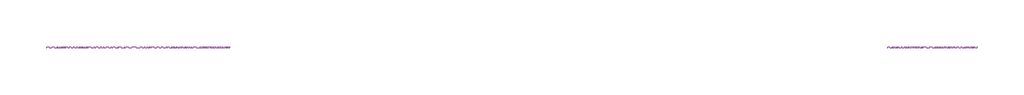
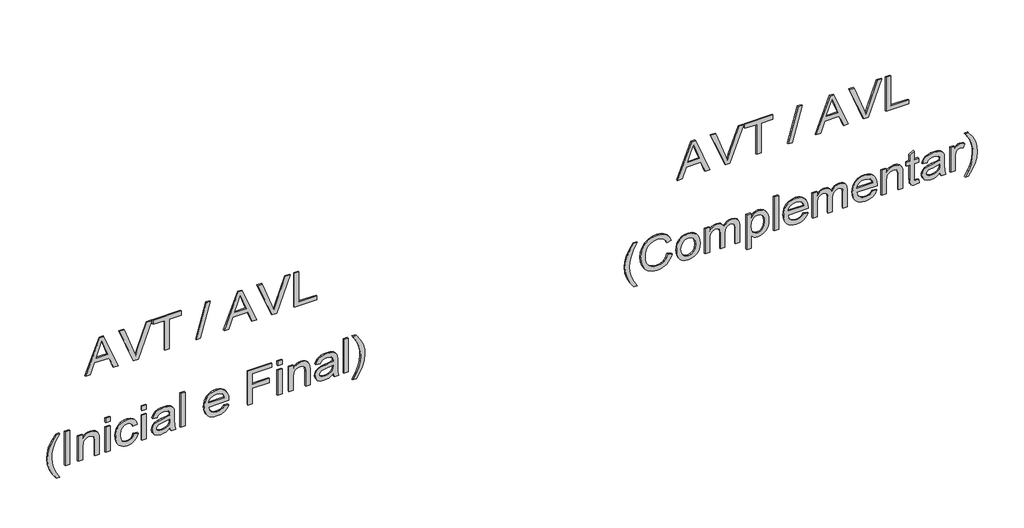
# One storey, part 8 of 14: 2 proxies.
"""IFC4 building model written with IfcOpenShell, lengths in millimetres."""

from ifc_helpers import new_model, si_unit, frame, origin, place, context, project, spatial, polyline, outline, extrude, element, save

model = new_model("IFC4")

# Units and contexts
model_context = context("Model", 3, world=origin())
ifc_project = project(units=[si_unit("LENGTHUNIT", "METRE", prefix="MILLI")], contexts=[model_context])

# Site, building, storey
site = spatial("IfcSite", under=ifc_project)
building = spatial("IfcBuilding", under=site)
storey = spatial("IfcBuildingStorey", under=building, Name="04 - Marelli - Planta Baixa - Painéis de Vidro", Elevation=36000.0)

# Proxies
placement = place(None, origin())
element("IfcBuildingElementProxy", 1, Name="300mm Arial", ObjectType="300mm Arial", at=placement, inside=storey, context=model_context, shape_type="SweptSolid", body=[
    extrude(outline(polyline([(42065.9244535, 62862.8276534), (42065.9244535, 62902.6324853), (42160.1022443, 62937.06624), (42160.1022443, 63061.1896252), (42065.9244535, 63095.6969563), (42065.9244535, 63135.5017882), (42367.293384, 63015.2043758), (42367.293384, 62983.1250658), (42065.9244535, 62862.8276534)]), holes=[polyline([(42197.7733606, 62950.898603), (42278.3395176, 62980.4027391), (42329.6222677, 62999.1647208), (42271.8647944, 63020.2811473), (42197.7733606, 63047.4308386), (42197.7733606, 62950.898603)])]), frame((0.0, 8778.3159498, 0.0), z_axis=(0.0, 1.0, 0.0), x_axis=(0.0, 0.0, 1.0)), (0.0, 0.0, 1.0), 10.0),
    extrude(outline(polyline([(42065.9244535, 63264.7755213), (42065.9244535, 63303.6974364), (42367.293384, 63418.5501953), (42367.293384, 63378.2303286), (42150.1694304, 63297.7377481), (42101.2411251, 63281.6980931), (42150.1694304, 63265.4377089), (42367.293384, 63185.1658576), (42367.293384, 63144.8459909), (42065.9244535, 63264.7755213)])), frame((0.0, 8778.3159498, 0.0), z_axis=(0.0, 1.0, 0.0), x_axis=(0.0, 0.0, 1.0)), (0.0, 0.0, 1.0), 10.0),
    extrude(outline(polyline([(42065.9244535, 63528.9147939), (42065.9244535, 63566.5859102), (42329.6222677, 63566.5859102), (42329.6222677, 63665.4725905), (42367.293384, 63665.4725905), (42367.293384, 63430.0281136), (42329.6222677, 63430.0281136), (42329.6222677, 63528.9147939), (42065.9244535, 63528.9147939)])), frame((0.0, 8778.3159498, 0.0), z_axis=(0.0, 1.0, 0.0), x_axis=(0.0, 0.0, 1.0)), (0.0, 0.0, 1.0), 10.0),
    extrude(outline(polyline([(42065.9244535, 63792.612608), (42065.9244535, 63826.6049044), (42367.293384, 63911.364916), (42367.293384, 63877.3726197), (42065.9244535, 63792.612608)])), frame((0.0, 8778.3159498, 0.0), z_axis=(0.0, 1.0, 0.0), x_axis=(0.0, 0.0, 1.0)), (0.0, 0.0, 1.0), 10.0),
    extrude(outline(polyline([(42065.9244535, 64025.9233693), (42065.9244535, 64065.7282012), (42160.1022443, 64100.161956), (42160.1022443, 64224.2853411), (42065.9244535, 64258.7926723), (42065.9244535, 64298.5975042), (42367.293384, 64178.3000917), (42367.293384, 64146.2207818), (42065.9244535, 64025.9233693)]), holes=[polyline([(42197.7733606, 64113.994319), (42278.3395176, 64143.498455), (42329.6222677, 64162.2604368), (42271.8647944, 64183.3768633), (42197.7733606, 64210.5265545), (42197.7733606, 64113.994319)])]), frame((0.0, 8778.3159498, 0.0), z_axis=(0.0, 1.0, 0.0), x_axis=(0.0, 0.0, 1.0)), (0.0, 0.0, 1.0), 10.0),
    extrude(outline(polyline([(42065.9244535, 64427.8712373), (42065.9244535, 64466.7931524), (42367.293384, 64581.6459113), (42367.293384, 64541.3260446), (42150.1694304, 64460.833464), (42101.2411251, 64444.7938091), (42150.1694304, 64428.5334249), (42367.293384, 64348.2615735), (42367.293384, 64307.9417068), (42065.9244535, 64427.8712373)])), frame((0.0, 8778.3159498, 0.0), z_axis=(0.0, 1.0, 0.0), x_axis=(0.0, 0.0, 1.0)), (0.0, 0.0, 1.0), 10.0),
    extrude(outline(polyline([(42065.9244535, 64616.6682772), (42065.9244535, 64805.0238587), (42103.5955698, 64805.0238587), (42103.5955698, 64654.3393935), (42367.293384, 64654.3393935), (42367.293384, 64616.6682772), (42065.9244535, 64616.6682772)])), frame((0.0, 8778.3159498, 0.0), z_axis=(0.0, 1.0, 0.0), x_axis=(0.0, 0.0, 1.0)), (0.0, 0.0, 1.0), 10.0),
    extrude(outline(polyline([(41249.3155348, 62615.3902234), (41249.3155348, 62643.6435607), (41297.5540614, 62614.8016122), (41345.8109821, 62594.2002205), (41394.0862969, 62581.8393855), (41442.3800058, 62577.7191071), (41480.2534572, 62580.091946), (41517.9429677, 62587.2104626), (41575.7740173, 62608.4004655), (41635.4444769, 62643.6435607), (41635.4444769, 62615.3902234), (41584.934279, 62580.6989513), (41534.2033518, 62556.3819514), (41489.4137189, 62544.131481), (41442.600735, 62540.0479908), (41389.2210575, 62545.5110385), (41337.68079, 62561.9001813), (41290.2791949, 62586.1987871), (41249.3155348, 62615.3902234)])), frame((0.0, 8778.3159498, 0.0), z_axis=(0.0, 1.0, 0.0), x_axis=(0.0, 0.0, 1.0)), (0.0, 0.0, 1.0), 10.0),
    extrude(outline(polyline([(62728.4035724, 8778.3159498), (62690.732456, 8778.3159498), (62690.732456, 8788.3159498), (62728.4035724, 8788.3159498), (62728.4035724, 8778.3159498)])), frame((0.0, 0.0, 41334.0755465), z_axis=(0.0, 0.0, 1.0), x_axis=(1.0, 0.0, 0.0)), (0.0, 0.0, 1.0), 301.3689304),
    extrude(outline(polyline([(41334.0755465, 62799.0369154), (41334.0755465, 62836.7080317), (41451.5034793, 62836.7080317), (41486.2131456, 62841.003054), (41498.5877762, 62846.3718319), (41507.6422718, 62853.8881209), (41518.7339139, 62872.6960879), (41522.431128, 62894.7598106), (41520.7848561, 62908.6565529), (41515.8460403, 62920.6219148), (41508.1481095, 62929.9569205), (41498.2244927, 62935.962594), (41464.8943839, 62940.3036016), (41334.0755465, 62940.3036016), (41334.0755465, 62977.9747179), (41469.9711555, 62977.9747179), (41506.391473, 62975.9881551), (41534.0929872, 62964.6941779), (41544.6328064, 62954.5958171), (41552.9285454, 62940.4139662), (41558.3088196, 62923.4086209), (41560.1022443, 62904.8397772), (41557.8765582, 62883.8613065), (41551.1995, 62865.513192), (41540.0710697, 62849.7954337), (41524.4912672, 62836.7080317), (41555.3933548, 62836.7080317), (41555.3933548, 62799.0369154), (41334.0755465, 62799.0369154)])), frame((0.0, 8778.3159498, 0.0), z_axis=(0.0, 1.0, 0.0), x_axis=(0.0, 0.0, 1.0)), (0.0, 0.0, 1.0), 10.0),
    extrude(outline(polyline([(63067.4436191, 8778.3159498), (63029.7725028, 8778.3159498), (63029.7725028, 8788.3159498), (63067.4436191, 8788.3159498), (63067.4436191, 8778.3159498)])), frame((0.0, 0.0, 41597.7733606), z_axis=(0.0, 0.0, 1.0), x_axis=(1.0, 0.0, 0.0)), (0.0, 0.0, 1.0), 37.6711163),
    extrude(outline(polyline([(63067.4436191, 8778.3159498), (63029.7725028, 8778.3159498), (63029.7725028, 8788.3159498), (63067.4436191, 8788.3159498), (63067.4436191, 8778.3159498)])), frame((0.0, 0.0, 41334.0755465), z_axis=(0.0, 0.0, 1.0), x_axis=(1.0, 0.0, 0.0)), (0.0, 0.0, 1.0), 221.3178083),
    extrude(outline(polyline([(41414.1266686, 63265.2169797), (41393.2493654, 63258.7882419), (41378.5892679, 63247.1539738), (41369.9256469, 63231.160304), (41367.0377732, 63211.6533612), (41371.6638893, 63187.6214699), (41385.5422376, 63168.647956), (41409.6477053, 63156.3147121), (41444.9551798, 63152.2036308), (41479.7936048, 63156.4066826), (41503.816299, 63169.015838), (41517.7774208, 63188.3388398), (41522.431128, 63212.6834308), (41520.0674862, 63229.1737412), (41512.9765607, 63243.0336954), (41501.1951398, 63253.6746821), (41484.7600117, 63260.5080902), (41489.4689012, 63298.1792065), (41519.4512838, 63287.9244959), (41541.7081445, 63269.6683519), (41555.5037194, 63244.2201148), (41560.1022443, 63212.3891252), (41556.7545181, 63185.7452717), (41546.7113397, 63161.1431633), (41529.9635118, 63140.5785598), (41506.5018376, 63126.0472209), (41477.448357, 63117.4111911), (41443.9251102, 63114.5325145), (41417.8675687, 63116.2178739), (41395.024396, 63121.2739521), (41375.3955923, 63129.700749), (41358.9811575, 63141.4982647), (41346.0248135, 63156.0732895), (41336.7702821, 63172.8326137), (41331.2175632, 63191.7762372), (41329.3666569, 63212.90416), (41334.6733547, 63245.535293), (41350.593448, 63272.648196), (41375.9129264, 63292.3850651), (41409.4177791, 63302.888096), (41414.1266686, 63265.2169797)])), frame((0.0, 8778.3159498, 0.0), z_axis=(0.0, 1.0, 0.0), x_axis=(0.0, 0.0, 1.0)), (0.0, 0.0, 1.0), 10.0),
    extrude(outline(polyline([(63373.5214391, 8778.3159498), (63335.8503228, 8778.3159498), (63335.8503228, 8788.3159498), (63373.5214391, 8788.3159498), (63373.5214391, 8778.3159498)])), frame((0.0, 0.0, 41597.7733606), z_axis=(0.0, 0.0, 1.0), x_axis=(1.0, 0.0, 0.0)), (0.0, 0.0, 1.0), 37.6711163),
    extrude(outline(polyline([(63373.5214391, 8778.3159498), (63335.8503228, 8778.3159498), (63335.8503228, 8788.3159498), (63373.5214391, 8788.3159498), (63373.5214391, 8778.3159498)])), frame((0.0, 0.0, 41334.0755465), z_axis=(0.0, 0.0, 1.0), x_axis=(1.0, 0.0, 0.0)), (0.0, 0.0, 1.0), 221.3178083),
    extrude(outline(polyline([(41362.3288837, 63571.2947997), (41334.0755465, 63580.7125788), (41334.0755465, 63618.3836951), (41365.7501862, 63610.8789024), (41431.1963932, 63608.965916), (41478.0645594, 63608.965916), (41511.0267861, 63607.126506), (41525.1442577, 63602.5831634), (41536.5945848, 63595.5750114), (41545.856014, 63585.0076011), (41553.406792, 63569.7864835), (41558.4283812, 63549.598959), (41560.1022443, 63524.1323279), (41558.207652, 63497.5804449), (41552.5238752, 63474.4314704), (41543.3452194, 63455.5039417), (41530.9659903, 63441.6163964), (41514.7791825, 63431.8583265), (41494.1777908, 63425.319224), (41489.4689012, 63462.9903403), (41505.1314772, 63470.4767389), (41515.1838527, 63481.1637109), (41520.6193092, 63496.8354839), (41522.431128, 63519.2762856), (41519.7088012, 63543.5197091), (41511.5418209, 63560.9205274), (41500.5421493, 63568.7012316), (41483.7299421, 63571.2947997), (41475.3422326, 63571.0740705), (41468.3524747, 63544.2554731), (41462.3927864, 63505.7382282), (41456.7274037, 63473.1438834), (41444.3665686, 63446.7667443), (41434.8752131, 63436.1625458), (41422.7351073, 63427.8208216), (41408.5532564, 63422.4129563), (41392.9366657, 63420.6103345), (41367.6079903, 63425.3836034), (41347.2457219, 63439.70341), (41333.8364232, 63462.925961), (41329.3666569, 63494.4074627), (41331.224461, 63515.2755689), (41336.7978732, 63534.7641176), (41346.896234, 63553.2961731), (41362.3288837, 63571.2947997)]), holes=[polyline([(41437.6711163, 63571.2947997), (41427.0025384, 63571.0740705), (41410.0799667, 63569.5841484), (41397.8662844, 63565.1143822), (41386.0112871, 63555.0344155), (41376.0508821, 63540.5398649), (41369.2910505, 63522.6607999), (41367.0377732, 63502.4272902), (41369.0795183, 63483.3434117), (41375.2047535, 63469.5018516), (41384.3834093, 63461.086551), (41395.5854161, 63458.2814508), (41410.0799667, 63463.4317987), (41420.0127805, 63478.1102903), (41426.1196217, 63510.5206941), (41437.6711163, 63571.2947997)])]), frame((0.0, 8778.3159498, 0.0), z_axis=(0.0, 1.0, 0.0), x_axis=(0.0, 0.0, 1.0)), (0.0, 0.0, 1.0), 10.0),
    extrude(outline(polyline([(63698.4348172, 8778.3159498), (63660.7637009, 8778.3159498), (63660.7637009, 8788.3159498), (63698.4348172, 8788.3159498), (63698.4348172, 8778.3159498)])), frame((0.0, 0.0, 41334.0755465), z_axis=(0.0, 0.0, 1.0), x_axis=(1.0, 0.0, 0.0)), (0.0, 0.0, 1.0), 301.3689304),
    extrude(outline(polyline([(41400.0, 64027.6156265), (41385.1191733, 64017.0574133), (41374.9104479, 64003.3354148), (41369.0059419, 63986.4496313), (41367.0377732, 63966.4000625), (41371.2868103, 63939.7378149), (41384.0339214, 63917.8764274), (41404.7640718, 63902.7288862), (41432.9622268, 63896.2081778), (41432.9622268, 64065.507472), (41443.1157698, 64065.7282012), (41469.3687487, 64063.9416743), (41492.5039277, 64058.5820935), (41512.5213067, 64049.6494588), (41529.4208859, 64037.1437702), (41542.8439802, 64021.8237844), (41552.4319047, 64004.4482579), (41558.1846594, 63985.0171907), (41560.1022443, 63963.530583), (41558.1800609, 63941.3289046), (41552.4135106, 63921.2977299), (41542.8025935, 63903.437059), (41529.3473095, 63887.746892), (41512.4109422, 63874.9675911), (41492.3567749, 63865.8395191), (41469.1848077, 63860.3626759), (41442.8950406, 63858.5370615), (41417.467497, 63860.3442818), (41395.0427901, 63865.7659427), (41375.62092, 63874.8020442), (41359.2018867, 63887.4525864), (41346.1489737, 63903.1841402), (41336.8254644, 63921.4632768), (41331.2313588, 63942.2899963), (41329.3666569, 63965.6642985), (41333.6892704, 64001.3212609), (41346.6571107, 64030.0068595), (41367.4608375, 64051.2428477), (41395.2911105, 64064.5509788), (41400.0, 64027.6156265)]), holes=[polyline([(41470.6333431, 63896.2081778), (41491.8693312, 63902.3977924), (41508.3412476, 63916.9935106), (41518.9086579, 63937.9903754), (41522.431128, 63963.3834302), (41518.0165441, 63991.011368), (41504.7727922, 64012.9739231), (41490.535759, 64022.9619193), (41470.6333431, 64028.0570849), (41470.6333431, 63896.2081778)])]), frame((0.0, 8778.3159498, 0.0), z_axis=(0.0, 1.0, 0.0), x_axis=(0.0, 0.0, 1.0)), (0.0, 0.0, 1.0), 10.0),
    extrude(outline(polyline([(41334.0755465, 64225.8304455), (41334.0755465, 64263.5015618), (41470.6333431, 64263.5015618), (41470.6333431, 64404.768248), (41508.3044594, 64404.768248), (41508.3044594, 64263.5015618), (41597.7733606, 64263.5015618), (41597.7733606, 64428.3126957), (41635.4444769, 64428.3126957), (41635.4444769, 64225.8304455), (41334.0755465, 64225.8304455)])), frame((0.0, 8778.3159498, 0.0), z_axis=(0.0, 1.0, 0.0), x_axis=(0.0, 0.0, 1.0)), (0.0, 0.0, 1.0), 10.0),
    extrude(outline(polyline([(64513.0727074, 8778.3159498), (64475.4015911, 8778.3159498), (64475.4015911, 8788.3159498), (64513.0727074, 8788.3159498), (64513.0727074, 8778.3159498)])), frame((0.0, 0.0, 41597.7733606), z_axis=(0.0, 0.0, 1.0), x_axis=(1.0, 0.0, 0.0)), (0.0, 0.0, 1.0), 37.6711163),
    extrude(outline(polyline([(64513.0727074, 8778.3159498), (64475.4015911, 8778.3159498), (64475.4015911, 8788.3159498), (64513.0727074, 8788.3159498), (64513.0727074, 8778.3159498)])), frame((0.0, 0.0, 41334.0755465), z_axis=(0.0, 0.0, 1.0), x_axis=(1.0, 0.0, 0.0)), (0.0, 0.0, 1.0), 221.3178083),
    extrude(outline(polyline([(41334.0755465, 64569.5793818), (41334.0755465, 64607.2504981), (41451.5034793, 64607.2504981), (41486.2131456, 64611.5455204), (41498.5877762, 64616.9142983), (41507.6422718, 64624.4305873), (41518.7339139, 64643.2385543), (41522.431128, 64665.302277), (41520.7848561, 64679.1990193), (41515.8460403, 64691.1643812), (41508.1481095, 64700.4993868), (41498.2244927, 64706.5050604), (41464.8943839, 64710.846068), (41334.0755465, 64710.846068), (41334.0755465, 64748.5171843), (41469.9711555, 64748.5171843), (41506.391473, 64746.5306215), (41534.0929872, 64735.2366442), (41544.6328064, 64725.1382835), (41552.9285454, 64710.9564326), (41558.3088196, 64693.9510873), (41560.1022443, 64675.3822436), (41557.8765582, 64654.4037729), (41551.1995, 64636.0556583), (41540.0710697, 64620.3379001), (41524.4912672, 64607.2504981), (41555.3933548, 64607.2504981), (41555.3933548, 64569.5793818), (41334.0755465, 64569.5793818)])), frame((0.0, 8778.3159498, 0.0), z_axis=(0.0, 1.0, 0.0), x_axis=(0.0, 0.0, 1.0)), (0.0, 0.0, 1.0), 10.0),
    extrude(outline(polyline([(41362.3288837, 64941.5816553), (41334.0755465, 64950.9994344), (41334.0755465, 64988.6705507), (41365.7501862, 64981.165758), (41431.1963932, 64979.2527716), (41478.0645594, 64979.2527716), (41511.0267861, 64977.4133617), (41525.1442577, 64972.870019), (41536.5945848, 64965.861867), (41545.856014, 64955.2944567), (41553.406792, 64940.0733392), (41558.4283812, 64919.8858147), (41560.1022443, 64894.4191836), (41558.207652, 64867.8673006), (41552.5238752, 64844.718326), (41543.3452194, 64825.7907974), (41530.9659903, 64811.903252), (41514.7791825, 64802.1451821), (41494.1777908, 64795.6060797), (41489.4689012, 64833.277196), (41505.1314772, 64840.7635946), (41515.1838527, 64851.4505665), (41520.6193092, 64867.1223395), (41522.431128, 64889.5631412), (41519.7088012, 64913.8065647), (41511.5418209, 64931.2073831), (41500.5421493, 64938.9880873), (41483.7299421, 64941.5816553), (41475.3422326, 64941.3609261), (41468.3524747, 64914.5423287), (41462.3927864, 64876.0250838), (41456.7274037, 64843.430739), (41444.3665686, 64817.0536), (41434.8752131, 64806.4494015), (41422.7351073, 64798.1076772), (41408.5532564, 64792.6998119), (41392.9366657, 64790.8971901), (41367.6079903, 64795.670459), (41347.2457219, 64809.9902657), (41333.8364232, 64833.2128166), (41329.3666569, 64864.6943183), (41331.224461, 64885.5624245), (41336.7978732, 64905.0509732), (41346.896234, 64923.5830287), (41362.3288837, 64941.5816553)]), holes=[polyline([(41437.6711163, 64941.5816553), (41427.0025384, 64941.3609261), (41410.0799667, 64939.8710041), (41397.8662844, 64935.4012378), (41386.0112871, 64925.3212712), (41376.0508821, 64910.8267205), (41369.2910505, 64892.9476556), (41367.0377732, 64872.7141458), (41369.0795183, 64853.6302673), (41375.2047535, 64839.7887073), (41384.3834093, 64831.3734066), (41395.5854161, 64828.5683064), (41410.0799667, 64833.7186544), (41420.0127805, 64848.397146), (41426.1196217, 64880.8075497), (41437.6711163, 64941.5816553)])]), frame((0.0, 8778.3159498, 0.0), z_axis=(0.0, 1.0, 0.0), x_axis=(0.0, 0.0, 1.0)), (0.0, 0.0, 1.0), 10.0),
    extrude(outline(polyline([(65068.7216729, 8778.3159498), (65031.0505566, 8778.3159498), (65031.0505566, 8788.3159498), (65068.7216729, 8788.3159498), (65068.7216729, 8778.3159498)])), frame((0.0, 0.0, 41334.0755465), z_axis=(0.0, 0.0, 1.0), x_axis=(1.0, 0.0, 0.0)), (0.0, 0.0, 1.0), 301.3689304),
    extrude(outline(polyline([(41249.3155348, 65134.6461264), (41290.2791949, 65163.699607), (41337.68079, 65188.0258039), (41389.2210575, 65204.4977202), (41442.600735, 65209.988359), (41489.4137189, 65205.9048689), (41534.2033518, 65193.6543984), (41584.934279, 65169.3373986), (41635.4444769, 65134.6461264), (41635.4444769, 65106.3927892), (41575.1854061, 65141.8566135), (41546.8400984, 65153.8311725), (41517.2807801, 65162.8258872), (41479.9775458, 65169.9444038), (41442.3800058, 65172.3172427), (41394.0862969, 65168.1969644), (41345.8109821, 65155.8361293), (41297.5540614, 65135.2347376), (41249.3155348, 65106.3927892), (41249.3155348, 65134.6461264)])), frame((0.0, 8778.3159498, 0.0), z_axis=(0.0, 1.0, 0.0), x_axis=(0.0, 0.0, 1.0)), (0.0, 0.0, 1.0), 10.0),
])
element("IfcBuildingElementProxy", 2, Name="300mm Arial", ObjectType="300mm Arial", at=placement, inside=storey, context=model_context, shape_type="SweptSolid", body=[
    extrude(outline(polyline([(42065.9244535, 67834.5743162), (42065.9244535, 67874.379148), (42160.1022443, 67908.8129028), (42160.1022443, 68032.936288), (42065.9244535, 68067.4436191), (42065.9244535, 68107.248451), (42367.293384, 67986.9510386), (42367.293384, 67954.8717286), (42065.9244535, 67834.5743162)]), holes=[polyline([(42197.7733606, 67922.6452658), (42278.3395176, 67952.1494018), (42329.6222677, 67970.9113836), (42271.8647944, 67992.0278101), (42197.7733606, 68019.1775013), (42197.7733606, 67922.6452658)])]), frame((0.0, 8778.3159498, 0.0), z_axis=(0.0, 1.0, 0.0), x_axis=(0.0, 0.0, 1.0)), (0.0, 0.0, 1.0), 10.0),
    extrude(outline(polyline([(42065.9244535, 68236.5221841), (42065.9244535, 68275.4440992), (42367.293384, 68390.2968581), (42367.293384, 68349.9769914), (42150.1694304, 68269.4844109), (42101.2411251, 68253.4447559), (42150.1694304, 68237.1843717), (42367.293384, 68156.9125203), (42367.293384, 68116.5926537), (42065.9244535, 68236.5221841)])), frame((0.0, 8778.3159498, 0.0), z_axis=(0.0, 1.0, 0.0), x_axis=(0.0, 0.0, 1.0)), (0.0, 0.0, 1.0), 10.0),
    extrude(outline(polyline([(42065.9244535, 68500.6614566), (42065.9244535, 68538.3325729), (42329.6222677, 68538.3325729), (42329.6222677, 68637.2192532), (42367.293384, 68637.2192532), (42367.293384, 68401.7747763), (42329.6222677, 68401.7747763), (42329.6222677, 68500.6614566), (42065.9244535, 68500.6614566)])), frame((0.0, 8778.3159498, 0.0), z_axis=(0.0, 1.0, 0.0), x_axis=(0.0, 0.0, 1.0)), (0.0, 0.0, 1.0), 10.0),
    extrude(outline(polyline([(42065.9244535, 68764.3592708), (42065.9244535, 68798.3515671), (42367.293384, 68883.1115788), (42367.293384, 68849.1192825), (42065.9244535, 68764.3592708)])), frame((0.0, 8778.3159498, 0.0), z_axis=(0.0, 1.0, 0.0), x_axis=(0.0, 0.0, 1.0)), (0.0, 0.0, 1.0), 10.0),
    extrude(outline(polyline([(42065.9244535, 68997.6700321), (42065.9244535, 69037.474864), (42160.1022443, 69071.9086187), (42160.1022443, 69196.0320039), (42065.9244535, 69230.5393351), (42065.9244535, 69270.3441669), (42367.293384, 69150.0467545), (42367.293384, 69117.9674445), (42065.9244535, 68997.6700321)]), holes=[polyline([(42197.7733606, 69085.7409818), (42278.3395176, 69115.2451178), (42329.6222677, 69134.0070995), (42271.8647944, 69155.123526), (42197.7733606, 69182.2732173), (42197.7733606, 69085.7409818)])]), frame((0.0, 8778.3159498, 0.0), z_axis=(0.0, 1.0, 0.0), x_axis=(0.0, 0.0, 1.0)), (0.0, 0.0, 1.0), 10.0),
    extrude(outline(polyline([(42065.9244535, 69399.6179), (42065.9244535, 69438.5398151), (42367.293384, 69553.392574), (42367.293384, 69513.0727074), (42150.1694304, 69432.5801268), (42101.2411251, 69416.5404718), (42150.1694304, 69400.2800876), (42367.293384, 69320.0082363), (42367.293384, 69279.6883696), (42065.9244535, 69399.6179)])), frame((0.0, 8778.3159498, 0.0), z_axis=(0.0, 1.0, 0.0), x_axis=(0.0, 0.0, 1.0)), (0.0, 0.0, 1.0), 10.0),
    extrude(outline(polyline([(42065.9244535, 69588.41494), (42065.9244535, 69776.7705215), (42103.5955698, 69776.7705215), (42103.5955698, 69626.0860563), (42367.293384, 69626.0860563), (42367.293384, 69588.41494), (42065.9244535, 69588.41494)])), frame((0.0, 8778.3159498, 0.0), z_axis=(0.0, 1.0, 0.0), x_axis=(0.0, 0.0, 1.0)), (0.0, 0.0, 1.0), 10.0),
    extrude(outline(polyline([(41249.3155348, 67469.4146478), (41249.3155348, 67497.667985), (41297.5540614, 67468.8260366), (41345.8109821, 67448.2246448), (41394.0862969, 67435.8638098), (41442.3800058, 67431.7435314), (41480.2534572, 67434.1163703), (41517.9429677, 67441.2348869), (41575.7740173, 67462.4248898), (41635.4444769, 67497.667985), (41635.4444769, 67469.4146478), (41584.934279, 67434.7233756), (41534.2033518, 67410.4063757), (41489.4137189, 67398.1559053), (41442.600735, 67394.0724151), (41389.2210575, 67399.5354628), (41337.68079, 67415.9246057), (41290.2791949, 67440.2232114), (41249.3155348, 67469.4146478)])), frame((0.0, 8778.3159498, 0.0), z_axis=(0.0, 1.0, 0.0), x_axis=(0.0, 0.0, 1.0)), (0.0, 0.0, 1.0), 10.0),
    extrude(outline(polyline([(41441.2027835, 67751.94802), (41408.9395325, 67739.761929), (41385.7261786, 67719.9790747), (41371.7098746, 67693.7766796), (41367.0377732, 67662.331966), (41370.4682728, 67635.3570187), (41380.7597717, 67610.3502401), (41397.9858461, 67589.491331), (41422.2200725, 67574.9599922), (41452.3128197, 67566.4343269), (41487.1144565, 67563.5924385), (41515.5333406, 67565.9928685), (41543.1060961, 67573.1941586), (41567.4966724, 67586.3183488), (41586.3690188, 67606.4874792), (41598.4539423, 67633.0669533), (41602.4822501, 67665.4221748), (41598.8494154, 67693.491571), (41587.9509113, 67716.3370429), (41569.1061561, 67734.1793197), (41541.6345681, 67747.2391305), (41550.6108888, 67784.9102468), (41588.4291579, 67768.2727836), (41603.751443, 67756.4706693), (41616.6824952, 67742.3463), (41626.9510013, 67726.16639), (41634.2856486, 67708.1976538), (41640.1533665, 67666.8937028), (41635.6192209, 67629.0386455), (41622.0167841, 67594.4945261), (41599.6771499, 67565.3674691), (41568.9314122, 67543.763599), (41530.9843844, 67530.3818914), (41487.0408801, 67525.9213222), (41445.3782441, 67529.8668566), (41406.4747231, 67541.7034598), (41373.3837376, 67561.0908409), (41349.1587083, 67587.6887092), (41334.3146698, 67622.3891784), (41329.3666569, 67666.0843624), (41331.0014325, 67688.50677), (41335.9057594, 67709.1265558), (41344.0796375, 67727.9437199), (41355.5230668, 67744.9582621), (41370.0796975, 67759.8344903), (41387.5931797, 67772.2367121), (41408.0635135, 67782.1649274), (41431.4906988, 67789.6191364), (41441.2027835, 67751.94802)])), frame((0.0, 8778.3159498, 0.0), z_axis=(0.0, 1.0, 0.0), x_axis=(0.0, 0.0, 1.0)), (0.0, 0.0, 1.0), 10.0),
    extrude(outline(polyline([(41444.7344506, 67827.2902527), (41418.4124939, 67828.9986047), (41395.3646869, 67834.1236607), (41375.5910296, 67842.6654208), (41359.0915221, 67854.6238849), (41346.0868936, 67869.350661), (41336.7978732, 67886.1973571), (41331.224461, 67905.1639733), (41329.3666569, 67926.2505094), (41332.7419742, 67952.8391806), (41342.8679261, 67977.2757421), (41359.1007192, 67997.8495427), (41380.7965599, 68012.849931), (41409.767267, 68022.0101927), (41447.8246594, 68025.0636133), (41472.7049786, 68023.3368672), (41494.7388108, 68018.1566288), (41513.9261561, 68009.5228982), (41530.2670145, 67997.4356754), (41543.3199275, 67982.6261259), (41552.6434368, 67965.825415), (41558.2375424, 67947.0335428), (41560.1022443, 67926.2505094), (41558.5709355, 67907.4241483), (41553.9770091, 67890.0877092), (41546.3204651, 67874.2411923), (41535.6013034, 67859.8845974), (41518.830483, 67845.6245716), (41498.095734, 67835.4388389), (41473.3970566, 67829.3273992), (41444.7344506, 67827.2902527)]), holes=[polyline([(41444.808027, 67864.961369), (41478.8830968, 67869.3207706), (41503.1173232, 67882.3989755), (41517.6026768, 67902.0806623), (41522.431128, 67926.2505094), (41517.5842827, 67950.1720361), (41503.0437468, 67969.8445258), (41479.0854319, 67983.0055042), (41445.9852494, 67987.392497), (41411.1468245, 67983.0330953), (41386.535519, 67969.9548904), (41371.9122097, 67950.3099918), (41367.0377732, 67926.2505094), (41371.8846185, 67902.0806623), (41386.4251544, 67882.3989755), (41410.7145631, 67869.3207706), (41444.808027, 67864.961369)])]), frame((0.0, 8778.3159498, 0.0), z_axis=(0.0, 1.0, 0.0), x_axis=(0.0, 0.0, 1.0)), (0.0, 0.0, 1.0), 10.0),
    extrude(outline(polyline([(41334.0755465, 68067.4436191), (41334.0755465, 68105.1147354), (41445.6909438, 68105.1147354), (41471.6082304, 68106.5494752), (41490.6461236, 68110.8536945), (41504.368122, 68118.3584872), (41514.3377241, 68129.3949471), (41520.407777, 68142.7674576), (41522.431128, 68157.2804023), (41519.3961015, 68174.359324), (41510.2910222, 68185.8648334), (41495.0974958, 68192.4039358), (41473.7971282, 68194.5836366), (41334.0755465, 68194.5836366), (41334.0755465, 68232.2547529), (41459.008272, 68232.2547529), (41487.7214617, 68235.94277), (41507.3479662, 68247.006821), (41518.6603375, 68263.6442842), (41522.431128, 68284.0525379), (41520.9596, 68295.6132296), (41516.5450161, 68305.5736346), (41509.7300021, 68313.3175506), (41501.0571841, 68318.2287752), (41469.6032735, 68321.7236542), (41334.0755465, 68321.7236542), (41334.0755465, 68359.3947705), (41485.7900813, 68359.3947705), (41518.7615051, 68355.0813541), (41541.8920855, 68342.1411049), (41555.5497046, 68321.1994223), (41560.1022443, 68292.8817058), (41557.366122, 68273.3563689), (41549.1577549, 68255.7624124), (41535.4771432, 68240.0998365), (41516.3242869, 68226.368641), (41534.7643719, 68218.1648725), (41548.5875379, 68205.6200965), (41557.2235677, 68188.8262834), (41560.1022443, 68167.8754038), (41557.27875, 68148.3224757), (41548.808267, 68131.0136279), (41535.702471, 68116.4455009), (41518.9730372, 68105.1147354), (41555.3933548, 68105.1147354), (41555.3933548, 68067.4436191), (41334.0755465, 68067.4436191)])), frame((0.0, 8778.3159498, 0.0), z_axis=(0.0, 1.0, 0.0), x_axis=(0.0, 0.0, 1.0)), (0.0, 0.0, 1.0), 10.0),
    extrude(outline(polyline([(41249.3155348, 68415.9014449), (41249.3155348, 68453.5725612), (41363.5061061, 68453.5725612), (41349.9956398, 68464.213548), (41339.0419534, 68477.4481027), (41331.785481, 68492.9083436), (41329.3666569, 68510.2263885), (41332.9810975, 68534.6445559), (41343.8244193, 68557.8671069), (41361.4459669, 68577.806311), (41385.3950848, 68592.374438), (41414.2094421, 68601.2863794), (41446.4267078, 68604.2570265), (41476.7217901, 68601.6266702), (41504.4784866, 68593.7356014), (41527.9861461, 68580.6757906), (41545.5341173, 68562.5392082), (41556.4602125, 68540.2639534), (41560.1022443, 68514.7881252), (41557.4994792, 68495.6582615), (41549.6911838, 68479.6186065), (41536.6773583, 68465.8598199), (41518.4580024, 68453.5725612), (41555.3933548, 68453.5725612), (41555.3933548, 68415.9014449), (41249.3155348, 68415.9014449)]), holes=[polyline([(41442.968617, 68453.5725612), (41477.1356573, 68457.9227658), (41502.0872537, 68470.9733796), (41517.3451594, 68489.670982), (41522.431128, 68510.9621525), (41517.6486621, 68532.1705495), (41503.3012642, 68550.1783732), (41479.3521464, 68562.4840259), (41445.7645202, 68566.5859102), (41410.7237602, 68562.3828584), (41386.2412134, 68549.773703), (41371.8386333, 68531.2784357), (41367.0377732, 68509.4170481), (41371.6730864, 68487.9051484), (41385.5790258, 68469.8697336), (41409.1970499, 68457.6468543), (41442.968617, 68453.5725612)])]), frame((0.0, 8778.3159498, 0.0), z_axis=(0.0, 1.0, 0.0), x_axis=(0.0, 0.0, 1.0)), (0.0, 0.0, 1.0), 10.0),
    extrude(outline(polyline([(68684.3081486, 8778.3159498), (68646.6370323, 8778.3159498), (68646.6370323, 8788.3159498), (68684.3081486, 8788.3159498), (68684.3081486, 8778.3159498)])), frame((0.0, 0.0, 41334.0755465), z_axis=(0.0, 0.0, 1.0), x_axis=(1.0, 0.0, 0.0)), (0.0, 0.0, 1.0), 301.3689304),
    extrude(outline(polyline([(41400.0, 68895.7667195), (41385.1191733, 68885.2085062), (41374.9104479, 68871.4865078), (41369.0059419, 68854.6007242), (41367.0377732, 68834.5511555), (41371.2868103, 68807.8889079), (41384.0339214, 68786.0275203), (41404.7640718, 68770.8799791), (41432.9622268, 68764.3592708), (41432.9622268, 68933.658565), (41443.1157698, 68933.8792942), (41469.3687487, 68932.0927672), (41492.5039277, 68926.7331864), (41512.5213067, 68917.8005517), (41529.4208859, 68905.2948631), (41542.8439802, 68889.9748773), (41552.4319047, 68872.5993508), (41558.1846594, 68853.1682837), (41560.1022443, 68831.6816759), (41558.1800609, 68809.4799975), (41552.4135106, 68789.4488228), (41542.8025935, 68771.588152), (41529.3473095, 68755.8979849), (41512.4109422, 68743.1186841), (41492.3567749, 68733.9906121), (41469.1848077, 68728.5137689), (41442.8950406, 68726.6881545), (41417.467497, 68728.4953748), (41395.0427901, 68733.9170357), (41375.62092, 68742.9531372), (41359.2018867, 68755.6036793), (41346.1489737, 68771.3352331), (41336.8254644, 68789.6143697), (41331.2313588, 68810.4410892), (41329.3666569, 68833.8153915), (41333.6892704, 68869.4723538), (41346.6571107, 68898.1579524), (41367.4608375, 68919.3939406), (41395.2911105, 68932.7020718), (41400.0, 68895.7667195)]), holes=[polyline([(41470.6333431, 68764.3592708), (41491.8693312, 68770.5488853), (41508.3412476, 68785.1446035), (41518.9086579, 68806.1414684), (41522.431128, 68831.5345231), (41518.0165441, 68859.1624609), (41504.7727922, 68881.125016), (41490.535759, 68891.1130122), (41470.6333431, 68896.2081778), (41470.6333431, 68764.3592708)])]), frame((0.0, 8778.3159498, 0.0), z_axis=(0.0, 1.0, 0.0), x_axis=(0.0, 0.0, 1.0)), (0.0, 0.0, 1.0), 10.0),
    extrude(outline(polyline([(41334.0755465, 68971.5504105), (41334.0755465, 69009.2215268), (41445.6909438, 69009.2215268), (41471.6082304, 69010.6562665), (41490.6461236, 69014.9604859), (41504.368122, 69022.4652786), (41514.3377241, 69033.5017384), (41520.407777, 69046.874249), (41522.431128, 69061.3871937), (41519.3961015, 69078.4661153), (41510.2910222, 69089.9716247), (41495.0974958, 69096.5107272), (41473.7971282, 69098.690428), (41334.0755465, 69098.690428), (41334.0755465, 69136.3615443), (41459.008272, 69136.3615443), (41487.7214617, 69140.0495613), (41507.3479662, 69151.1136123), (41518.6603375, 69167.7510755), (41522.431128, 69188.1593292), (41520.9596, 69199.7200209), (41516.5450161, 69209.6804259), (41509.7300021, 69217.4243419), (41501.0571841, 69222.3355666), (41469.6032735, 69225.8304455), (41334.0755465, 69225.8304455), (41334.0755465, 69263.5015618), (41485.7900813, 69263.5015618), (41518.7615051, 69259.1881454), (41541.8920855, 69246.2478963), (41555.5497046, 69225.3062137), (41560.1022443, 69196.9884971), (41557.366122, 69177.4631602), (41549.1577549, 69159.8692038), (41535.4771432, 69144.2066278), (41516.3242869, 69130.4754324), (41534.7643719, 69122.2716639), (41548.5875379, 69109.7268878), (41557.2235677, 69092.9330748), (41560.1022443, 69071.9821951), (41557.27875, 69052.4292671), (41548.808267, 69035.1204192), (41535.702471, 69020.5522922), (41518.9730372, 69009.2215268), (41555.3933548, 69009.2215268), (41555.3933548, 68971.5504105), (41334.0755465, 68971.5504105)])), frame((0.0, 8778.3159498, 0.0), z_axis=(0.0, 1.0, 0.0), x_axis=(0.0, 0.0, 1.0)), (0.0, 0.0, 1.0), 10.0),
    extrude(outline(polyline([(41400.0, 69474.9601327), (41385.1191733, 69464.4019194), (41374.9104479, 69450.679921), (41369.0059419, 69433.7941374), (41367.0377732, 69413.7445687), (41371.2868103, 69387.0823211), (41384.0339214, 69365.2209335), (41404.7640718, 69350.0733923), (41432.9622268, 69343.552684), (41432.9622268, 69512.8519782), (41443.1157698, 69513.0727074), (41469.3687487, 69511.2861804), (41492.5039277, 69505.9265996), (41512.5213067, 69496.9939649), (41529.4208859, 69484.4882763), (41542.8439802, 69469.1682905), (41552.4319047, 69451.792764), (41558.1846594, 69432.3616969), (41560.1022443, 69410.8750891), (41558.1800609, 69388.6734107), (41552.4135106, 69368.6422361), (41542.8025935, 69350.7815652), (41529.3473095, 69335.0913981), (41512.4109422, 69322.3120973), (41492.3567749, 69313.1840253), (41469.1848077, 69307.7071821), (41442.8950406, 69305.8815677), (41417.467497, 69307.688788), (41395.0427901, 69313.1104489), (41375.62092, 69322.1465504), (41359.2018867, 69334.7970925), (41346.1489737, 69350.5286463), (41336.8254644, 69368.8077829), (41331.2313588, 69389.6345024), (41329.3666569, 69413.0088047), (41333.6892704, 69448.6657671), (41346.6571107, 69477.3513656), (41367.4608375, 69498.5873538), (41395.2911105, 69511.895485), (41400.0, 69474.9601327)]), holes=[polyline([(41470.6333431, 69343.552684), (41491.8693312, 69349.7422985), (41508.3412476, 69364.3380167), (41518.9086579, 69385.3348816), (41522.431128, 69410.7279363), (41518.0165441, 69438.3558741), (41504.7727922, 69460.3184292), (41490.535759, 69470.3064254), (41470.6333431, 69475.4015911), (41470.6333431, 69343.552684)])]), frame((0.0, 8778.3159498, 0.0), z_axis=(0.0, 1.0, 0.0), x_axis=(0.0, 0.0, 1.0)), (0.0, 0.0, 1.0), 10.0),
    extrude(outline(polyline([(41334.0755465, 69550.7438237), (41334.0755465, 69588.41494), (41451.5034793, 69588.41494), (41486.2131456, 69592.7099623), (41498.5877762, 69598.0787401), (41507.6422718, 69605.5950291), (41518.7339139, 69624.4029961), (41522.431128, 69646.4667188), (41520.7848561, 69660.3634612), (41515.8460403, 69672.3288231), (41508.1481095, 69681.6638287), (41498.2244927, 69687.6695023), (41464.8943839, 69692.0105098), (41334.0755465, 69692.0105098), (41334.0755465, 69729.6816261), (41469.9711555, 69729.6816261), (41506.391473, 69727.6950633), (41534.0929872, 69716.4010861), (41544.6328064, 69706.3027253), (41552.9285454, 69692.1208744), (41558.3088196, 69675.1155292), (41560.1022443, 69656.5466855), (41557.8765582, 69635.5682147), (41551.1995, 69617.2201002), (41540.0710697, 69601.5023419), (41524.4912672, 69588.41494), (41555.3933548, 69588.41494), (41555.3933548, 69550.7438237), (41334.0755465, 69550.7438237)])), frame((0.0, 8778.3159498, 0.0), z_axis=(0.0, 1.0, 0.0), x_axis=(0.0, 0.0, 1.0)), (0.0, 0.0, 1.0), 10.0),
    extrude(outline(polyline([(41365.4926689, 69861.5305332), (41367.0377732, 69845.1229962), (41369.576159, 69832.2839146), (41376.4555523, 69825.8459797), (41395.8797217, 69823.8594169), (41517.7222385, 69823.8594169), (41517.7222385, 69861.5305332), (41555.3933548, 69861.5305332), (41555.3933548, 69823.8594169), (41631.3241986, 69823.8594169), (41609.1777025, 69786.1883006), (41555.3933548, 69786.1883006), (41555.3933548, 69757.9349633), (41517.7222385, 69757.9349633), (41517.7222385, 69786.1883006), (41394.7760757, 69786.1883006), (41367.7919313, 69787.3287348), (41352.0281878, 69790.7500373), (41342.849532, 69796.967243), (41335.6206508, 69806.4953867), (41330.9301554, 69819.9782618), (41329.3666569, 69838.0596619), (41332.9719005, 69866.2394227), (41365.4926689, 69861.5305332)])), frame((0.0, 8778.3159498, 0.0), z_axis=(0.0, 1.0, 0.0), x_axis=(0.0, 0.0, 1.0)), (0.0, 0.0, 1.0), 10.0),
    extrude(outline(polyline([(41362.3288837, 70040.4683356), (41334.0755465, 70049.8861147), (41334.0755465, 70087.557231), (41365.7501862, 70080.0524383), (41431.1963932, 70078.1394519), (41478.0645594, 70078.1394519), (41511.0267861, 70076.300042), (41525.1442577, 70071.7566993), (41536.5945848, 70064.7485473), (41545.856014, 70054.181137), (41553.406792, 70038.9600195), (41558.4283812, 70018.772495), (41560.1022443, 69993.3058639), (41558.207652, 69966.7539809), (41552.5238752, 69943.6050063), (41543.3452194, 69924.6774777), (41530.9659903, 69910.7899323), (41514.7791825, 69901.0318624), (41494.1777908, 69894.49276), (41489.4689012, 69932.1638763), (41505.1314772, 69939.6502749), (41515.1838527, 69950.3372468), (41520.6193092, 69966.0090198), (41522.431128, 69988.4498215), (41519.7088012, 70012.693245), (41511.5418209, 70030.0940634), (41500.5421493, 70037.8747676), (41483.7299421, 70040.4683356), (41475.3422326, 70040.2476064), (41468.3524747, 70013.429009), (41462.3927864, 69974.9117641), (41456.7274037, 69942.3174193), (41444.3665686, 69915.9402803), (41434.8752131, 69905.3360818), (41422.7351073, 69896.9943575), (41408.5532564, 69891.5864922), (41392.9366657, 69889.7838704), (41367.6079903, 69894.5571393), (41347.2457219, 69908.876946), (41333.8364232, 69932.0994969), (41329.3666569, 69963.5809987), (41331.224461, 69984.4491048), (41336.7978732, 70003.9376535), (41346.896234, 70022.469709), (41362.3288837, 70040.4683356)]), holes=[polyline([(41437.6711163, 70040.4683356), (41427.0025384, 70040.2476064), (41410.0799667, 70038.7576844), (41397.8662844, 70034.2879181), (41386.0112871, 70024.2079515), (41376.0508821, 70009.7134008), (41369.2910505, 69991.8343359), (41367.0377732, 69971.6008261), (41369.0795183, 69952.5169476), (41375.2047535, 69938.6753876), (41384.3834093, 69930.2600869), (41395.5854161, 69927.4549867), (41410.0799667, 69932.6053347), (41420.0127805, 69947.2838263), (41426.1196217, 69979.69423), (41437.6711163, 70040.4683356)])]), frame((0.0, 8778.3159498, 0.0), z_axis=(0.0, 1.0, 0.0), x_axis=(0.0, 0.0, 1.0)), (0.0, 0.0, 1.0), 10.0),
    extrude(outline(polyline([(41334.0755465, 70129.9372369), (41334.0755465, 70167.6083532), (41450.3998333, 70167.6083532), (41473.3556698, 70169.1350635), (41494.39852, 70173.7151943), (41506.1339556, 70179.1690449), (41514.9999117, 70187.2900399), (41520.5733239, 70197.3424154), (41522.431128, 70208.5904074), (41520.4997475, 70221.8341593), (41514.7056061, 70235.0779111), (41548.4771733, 70247.6594753), (41557.1959765, 70228.603188), (41560.1022443, 70209.8412062), (41558.2812284, 70197.5539476), (41552.8181808, 70186.2967585), (41541.6345681, 70175.0763577), (41522.6518572, 70162.8994636), (41555.3933548, 70162.8994636), (41555.3933548, 70129.9372369), (41334.0755465, 70129.9372369)])), frame((0.0, 8778.3159498, 0.0), z_axis=(0.0, 1.0, 0.0), x_axis=(0.0, 0.0, 1.0)), (0.0, 0.0, 1.0), 10.0),
    extrude(outline(polyline([(41249.3155348, 70280.6217021), (41290.2791949, 70309.6751827), (41337.68079, 70334.0013796), (41389.2210575, 70350.4732959), (41442.600735, 70355.9639347), (41489.4137189, 70351.8804446), (41534.2033518, 70339.6299741), (41584.934279, 70315.3129742), (41635.4444769, 70280.6217021), (41635.4444769, 70252.3683649), (41575.1854061, 70287.8321892), (41546.8400984, 70299.8067481), (41517.2807801, 70308.8014629), (41479.9775458, 70315.9199795), (41442.3800058, 70318.2928184), (41394.0862969, 70314.1725401), (41345.8109821, 70301.811705), (41297.5540614, 70281.2103133), (41249.3155348, 70252.3683649), (41249.3155348, 70280.6217021)])), frame((0.0, 8778.3159498, 0.0), z_axis=(0.0, 1.0, 0.0), x_axis=(0.0, 0.0, 1.0)), (0.0, 0.0, 1.0), 10.0),
])

save(model, "model.ifc")
